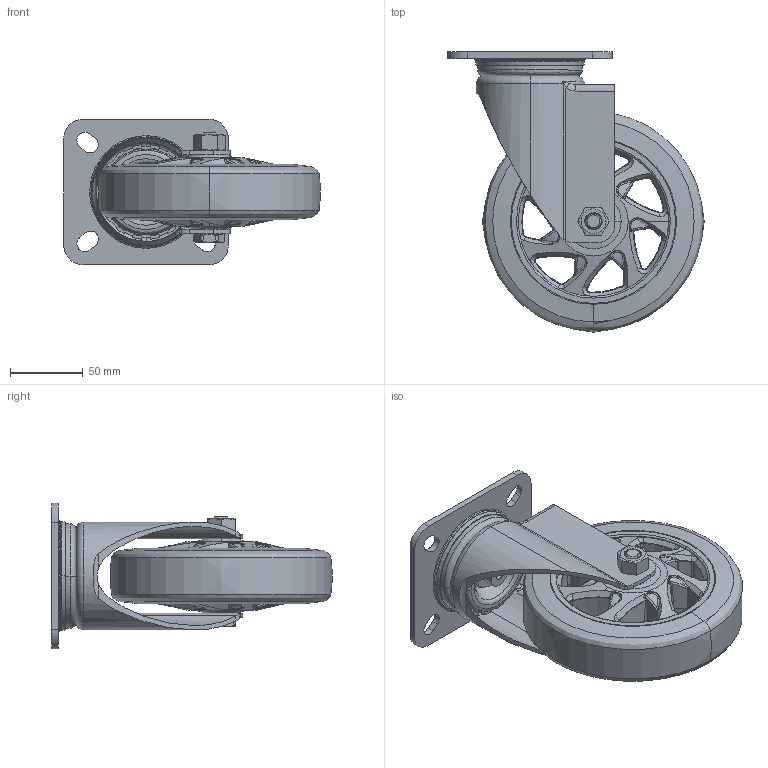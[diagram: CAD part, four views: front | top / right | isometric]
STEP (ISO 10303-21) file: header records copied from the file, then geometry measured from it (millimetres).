
FILE_DESCRIPTION (( 'STEP AP203' ), '1' );
FILE_NAME ('6渡勀砃.STEP', '2025-01-03T08:33:51', ( '' ), ( '' ), 'SwSTEP 2.0', 'SolidWorks 2023', '' );
FILE_SCHEMA (( 'CONFIG_CONTROL_DESIGN' ));
Length unit declared in the file: millimetre
Products named in the file (9): 复件 (3) 6寸万向带刹车^_6寸万向(2)_6寸万向; 复件 ^6寸轮子; 6寸万向; 6寸万向带刹车^_6寸万向(2)_6寸万向; 6cun jia^6寸万向(2)_6寸万向; ^6寸万向(2)_6寸万向; 6寸万向(2)^6寸万向; 6寸轮子; 复件 复件 (5)^6寸轮子
Assembly tree (8 placements, depth 5):
  6寸万向
    6寸万向(2)^6寸万向
      ^6寸万向(2)_6寸万向
        6寸万向带刹车^_6寸万向(2)_6寸万向
        复件 (3) 6寸万向带刹车^_6寸万向(2)_6寸万向
        6寸轮子
          复件 ^6寸轮子
          复件 复件 (5)^6寸轮子
      6cun jia^6寸万向(2)_6寸万向
Bounding box: 176.1 x 192.32 x 100 mm (x, y, z)
Volume: 839036.3 mm3; surface area: 227052.3 mm2
Topology: 4 solids, 60 shells, 1482 faces, 3787 edges, 2217 vertices
Faces by surface type: bspline 1139, plane 160, cylinder 93, cone 78, torus 12
Entity records: 88722 total; most frequent: CARTESIAN_POINT 63665, ORIENTED_EDGE 7134, EDGE_CURVE 3569, VERTEX_POINT 2217, B_SPLINE_CURVE_WITH_KNOTS 1961, DIRECTION 1878, EDGE_LOOP 1564, FACE_OUTER_BOUND 1482
